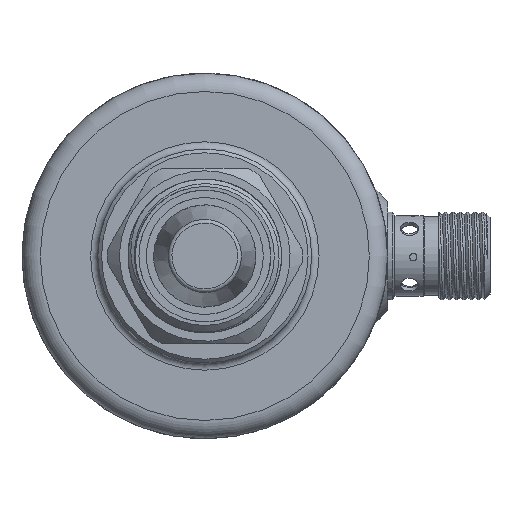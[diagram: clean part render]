
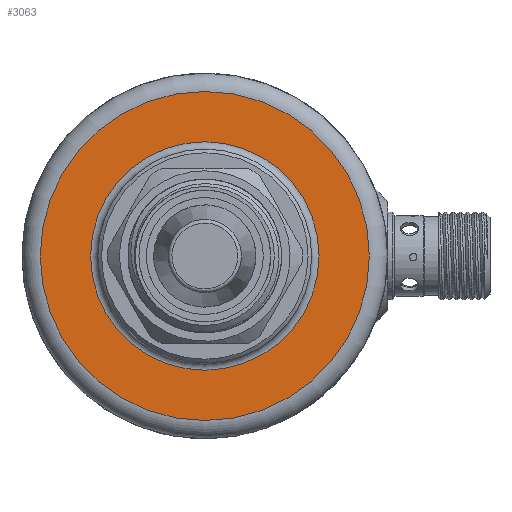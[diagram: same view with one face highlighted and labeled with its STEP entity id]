
A CAD part, front view. The second image highlights one B-rep face of the part: STEP entity #3063.
In plain terms, the highlighted planar face has unit normal (0, -1, 0) as drawn and (-1, 0, 0) by its records, which use the part's own axes.
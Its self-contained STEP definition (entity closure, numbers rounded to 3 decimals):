
#192 = CIRCLE ( 'NONE', #4918, 15.62 ) ;
#1051 = DIRECTION ( 'NONE',  ( 0., 0., -1. ) ) ;
#1255 = CARTESIAN_POINT ( 'NONE',  ( 41., 0., -0.275 ) ) ;
#2113 = ORIENTED_EDGE ( 'NONE', *, *, #2355, .T. ) ;
#2355 = EDGE_CURVE ( 'NONE', #8016, #8016, #10897, .T. ) ;
#2371 = CARTESIAN_POINT ( 'NONE',  ( 41., 0., -0.275 ) ) ;
#2573 = AXIS2_PLACEMENT_3D ( 'NONE', #9684, #11020, #8690 ) ;
#2950 = ORIENTED_EDGE ( 'NONE', *, *, #5155, .T. ) ;
#3063 = ADVANCED_FACE ( 'NONE', ( #3314, #5351 ), #8587, .F. ) ;
#3314 = FACE_BOUND ( 'NONE', #3801, .T. ) ;
#3801 = EDGE_LOOP ( 'NONE', ( #2950 ) ) ;
#4918 = AXIS2_PLACEMENT_3D ( 'NONE', #2371, #8994, #13215 ) ;
#5155 = EDGE_CURVE ( 'NONE', #13764, #13764, #192, .T. ) ;
#5351 = FACE_OUTER_BOUND ( 'NONE', #6074, .T. ) ;
#5497 = DIRECTION ( 'NONE',  ( 1., 0., 0. ) ) ;
#6074 = EDGE_LOOP ( 'NONE', ( #2113 ) ) ;
#7177 = CARTESIAN_POINT ( 'NONE',  ( 41., 0., -15.895 ) ) ;
#7893 = AXIS2_PLACEMENT_3D ( 'NONE', #1255, #5497, #1051 ) ;
#8016 = VERTEX_POINT ( 'NONE', #13141 ) ;
#8587 = PLANE ( 'NONE',  #7893 ) ;
#8690 = DIRECTION ( 'NONE',  ( 0., 0., -1. ) ) ;
#8994 = DIRECTION ( 'NONE',  ( 1., 0., 0. ) ) ;
#9684 = CARTESIAN_POINT ( 'NONE',  ( 41., 0., -0.275 ) ) ;
#10897 = CIRCLE ( 'NONE', #2573, 22.5 ) ;
#11020 = DIRECTION ( 'NONE',  ( -1., 0., 0. ) ) ;
#13141 = CARTESIAN_POINT ( 'NONE',  ( 41., 0., -22.775 ) ) ;
#13215 = DIRECTION ( 'NONE',  ( 0., 0., -1. ) ) ;
#13764 = VERTEX_POINT ( 'NONE', #7177 ) ;
